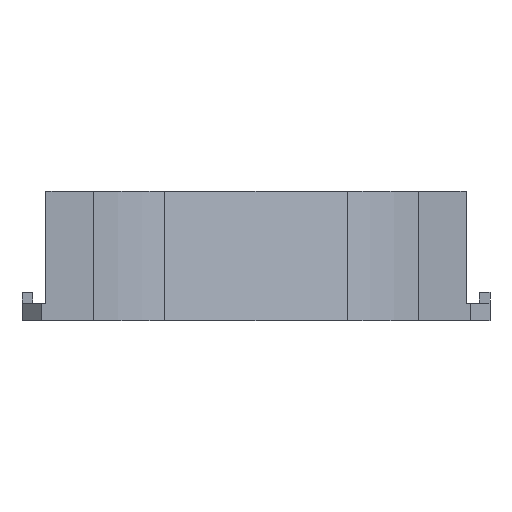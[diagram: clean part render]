
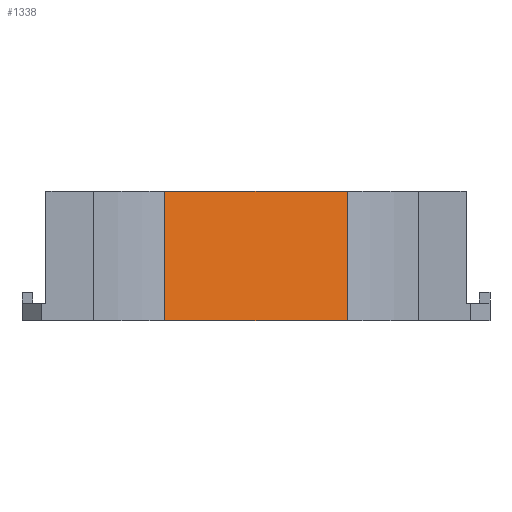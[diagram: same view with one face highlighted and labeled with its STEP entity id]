
A CAD part, left-side view. The second image highlights one B-rep face of the part: STEP entity #1338.
In plain terms, the highlighted planar face has unit normal (-0.9, -0.435, 0).
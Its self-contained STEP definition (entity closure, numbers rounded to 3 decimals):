
#404=CARTESIAN_POINT('Vertex',(-12.722,-8.406,0.)) ;
#407=CARTESIAN_POINT('Line Origine',(-16.788,0.,0.)) ;
#411=CARTESIAN_POINT('Vertex',(-20.853,8.406,0.)) ;
#1300=CARTESIAN_POINT('Vertex',(-20.853,8.406,11.9)) ;
#1303=CARTESIAN_POINT('Line Origine',(-20.853,8.406,5.95)) ;
#1315=CARTESIAN_POINT('Axis2P3D Location',(-22.35,11.5,0.)) ;
#1320=CARTESIAN_POINT('Line Origine',(-16.788,0.,11.9)) ;
#1324=CARTESIAN_POINT('Vertex',(-12.722,-8.406,11.9)) ;
#1327=CARTESIAN_POINT('Line Origine',(-12.722,-8.406,5.95)) ;
#408=DIRECTION('Vector Direction',(0.435,-0.9,0.)) ;
#1304=DIRECTION('Vector Direction',(0.,0.,1.)) ;
#1316=DIRECTION('Axis2P3D Direction',(-0.9,-0.435,0.)) ;
#1317=DIRECTION('Axis2P3D XDirection',(0.435,-0.9,0.)) ;
#1321=DIRECTION('Vector Direction',(0.435,-0.9,0.)) ;
#1328=DIRECTION('Vector Direction',(0.,0.,1.)) ;
#1318=AXIS2_PLACEMENT_3D('Plane Axis2P3D',#1315,#1316,#1317) ;
#1333=ORIENTED_EDGE('',*,*,#1326,.F.) ;
#1334=ORIENTED_EDGE('',*,*,#1307,.F.) ;
#1335=ORIENTED_EDGE('',*,*,#413,.T.) ;
#1336=ORIENTED_EDGE('',*,*,#1331,.F.) ;
#409=VECTOR('Line Direction',#408,1.) ;
#1305=VECTOR('Line Direction',#1304,1.) ;
#1322=VECTOR('Line Direction',#1321,1.) ;
#1329=VECTOR('Line Direction',#1328,1.) ;
#1338=ADVANCED_FACE('PartBody',(#1337),#1319,.T.) ;
#413=EDGE_CURVE('',#412,#405,#410,.T.) ;
#1307=EDGE_CURVE('',#412,#1301,#1306,.T.) ;
#1326=EDGE_CURVE('',#1301,#1325,#1323,.T.) ;
#1331=EDGE_CURVE('',#1325,#405,#1330,.F.) ;
#1332=EDGE_LOOP('',(#1333,#1334,#1335,#1336)) ;
#1337=FACE_OUTER_BOUND('',#1332,.T.) ;
#410=LINE('Line',#407,#409) ;
#1306=LINE('Line',#1303,#1305) ;
#1323=LINE('Line',#1320,#1322) ;
#1330=LINE('Line',#1327,#1329) ;
#1319=PLANE('Plane',#1318) ;
#405=VERTEX_POINT('',#404) ;
#412=VERTEX_POINT('',#411) ;
#1301=VERTEX_POINT('',#1300) ;
#1325=VERTEX_POINT('',#1324) ;
